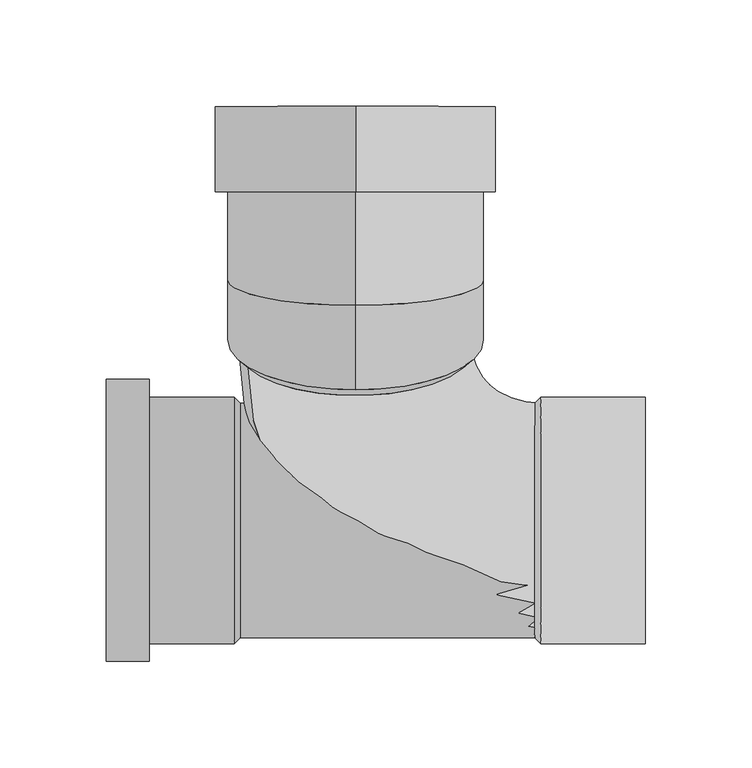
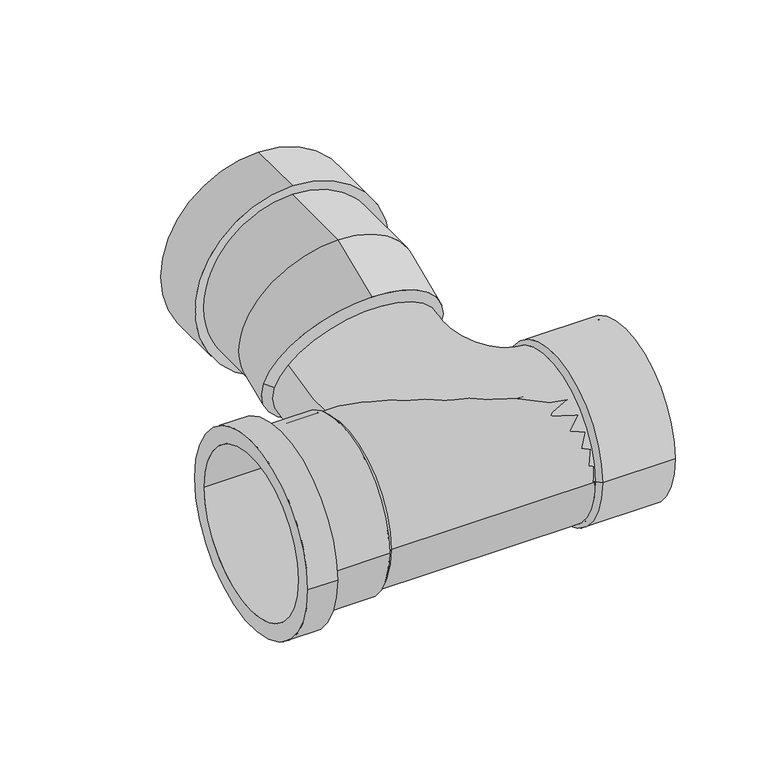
"""IFC4 building model written with IfcOpenShell, lengths in millimetres: pipe fitting geometry, Wavin_PipeAccessory_S&WSPvcBranchWc : 23º."""

from ifc_helpers import new_model, si_unit, point, frame, origin, origin_2d, place, context, project, spatial, polyline, circle_curve, ellipse_curve, trimmed, segment, composite_curve, outline, extrude, source, transform, mapped, element, save
from ifc_brep_helpers import plane_surface, cylinder_surface, revolved_surface, advanced_brep


def pipe_fitting_f7622124(model_context):
    return source(origin(), model_context, "Body", "SolidModel", [
        advanced_brep(
        [(-54.1, -55.0, 0.0), (-54.1, 55.0, 0.0), (-117.0, 55.0, 0.0), (-117.0, -55.0, 0.0), (-97.0, -57.9, 0.0), (-97.0, 57.9, 0.0), (-57.0, 57.9, 0.0), (-57.0, -57.9, 0.0), (-117.0, -66.25, 0.0), (-117.0, 66.25, 0.0), (-97.0, 66.25, 0.0), (-97.0, -66.25, 0.0)],
        [
            (0, 1, circle_curve(frame((-54.1, 0.0, 0.0), z_axis=(1.0, 0.0, 0.0), x_axis=(0.0, 1.0000000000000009, 0.0)), 55.0)),
            (1, 2),
            (2, 3, circle_curve(frame((-117.0, 0.0, 0.0), z_axis=(-1.0, 0.0, 0.0), x_axis=(0.0, 1.0000000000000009, 0.0)), 55.0)),
            (3, 0),
            (4, 5, circle_curve(frame((-97.0, 0.0, 0.0), z_axis=(1.0, 0.0, 0.0), x_axis=(0.0, 1.0000000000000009, 0.0)), 57.9)),
            (5, 6),
            (6, 7, circle_curve(frame((-57.0, 0.0, 0.0), z_axis=(-1.0, 0.0, 0.0), x_axis=(0.0, 1.0000000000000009, 0.0)), 57.9)),
            (7, 4),
            (1, 0, circle_curve(frame((-54.1, 0.0, 0.0), z_axis=(1.0, 0.0, 0.0), x_axis=(0.0, -1.0000000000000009, 0.0)), 55.0)),
            (3, 2, circle_curve(frame((-117.0, 0.0, 0.0), z_axis=(-1.0, 0.0, 0.0), x_axis=(0.0, -1.0000000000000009, 0.0)), 55.0)),
            (5, 4, circle_curve(frame((-97.0, 0.0, 0.0), z_axis=(1.0, 0.0, 0.0), x_axis=(0.0, -1.0000000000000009, 0.0)), 57.9)),
            (7, 6, circle_curve(frame((-57.0, 0.0, 0.0), z_axis=(-1.0, 0.0, 0.0), x_axis=(0.0, -1.0000000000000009, 0.0)), 57.9)),
            (8, 9, circle_curve(frame((-117.0, 0.0, 0.0), z_axis=(1.0, 0.0, 0.0), x_axis=(0.0, 1.0000000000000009, 0.0)), 66.25)),
            (9, 10),
            (10, 11, circle_curve(frame((-97.0, 0.0, 0.0), z_axis=(-1.0, 0.0, 0.0), x_axis=(0.0, 1.0000000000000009, 0.0)), 66.25)),
            (11, 8),
            (10, 11, circle_curve(frame((-97.0, 0.0, 0.0), z_axis=(1.0, 0.0, 0.0), x_axis=(0.0, -1.0000000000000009, 0.0)), 66.25)),
            (9, 8, circle_curve(frame((-117.0, 0.0, 0.0), z_axis=(1.0, 0.0, 0.0), x_axis=(0.0, -1.0000000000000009, 0.0)), 66.25)),
            (6, 1),
            (0, 7),
        ],
        [
            revolved_surface(polyline([(-117.00000000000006, 55.00000000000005, 0.0), (-54.1, 55.00000000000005, 0.0)]), (-57.0, 0.0, 0.0), (-1.0000000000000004, 0.0, 0.0)),
            cylinder_surface(frame((-57.0, 0.0, 0.0), z_axis=(-1.0000000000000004, 0.0, 0.0), x_axis=(0.0, 1.0000000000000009, 0.0)), 57.9),
            revolved_surface(polyline([(-117.00000000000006, -55.00000000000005, 0.0), (-54.1, -55.00000000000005, 0.0)]), (-57.0, 0.0, 0.0), (-1.0000000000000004, 0.0, 0.0)),
            cylinder_surface(frame((-57.0, 0.0, 0.0), z_axis=(-1.0000000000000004, 0.0, 0.0), x_axis=(0.0, -1.0000000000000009, 0.0)), 57.9),
            cylinder_surface(frame((-57.0, 0.0, 0.0), z_axis=(-1.0000000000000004, 0.0, 0.0), x_axis=(0.0, 1.0000000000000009, 0.0)), 66.25),
            plane_surface(frame((-97.0, 0.0, 0.0), z_axis=(1.0, 0.0, 0.0), x_axis=(0.0, -1.0, 0.0))),
            cylinder_surface(frame((-57.0, 0.0, 0.0), z_axis=(-1.0000000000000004, 0.0, 0.0), x_axis=(0.0, -1.0000000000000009, 0.0)), 66.25),
            plane_surface(frame((-117.0, 0.0, 0.0), z_axis=(-1.0, 0.0, 0.0), x_axis=(0.0, -1.0, 0.0))),
            revolved_surface(polyline([(-54.1, 55.0, 0.0), (-57.0, 57.9, 0.0)]), (-57.0, 0.0, 0.0), (-1.0000000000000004, 0.0, 0.0)),
            revolved_surface(polyline([(-54.1, -55.0, 0.0), (-57.0, -57.9, 0.0)]), (-57.0, 0.0, 0.0), (-1.0000000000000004, 0.0, 0.0)),
        ],
        [
            (0, [[1, 2, 3, 4]]),
            (1, [[5, 6, 7, 8]]),
            (2, [[9, -4, 10, -2]]),
            (3, [[11, -8, 12, -6]]),
            (4, [[13, 14, 15, 16]]),
            (5, [[17, -15], [-11, -5]]),
            (6, [[18, -16, -17, -14]]),
            (7, [[-18, -13], [-10, -3]]),
            (8, [[-7, 19, -1, 20]]),
            (9, [[-12, -20, -9, -19]]),
        ],
    ),
        advanced_brep(
        [(87.0, 57.9, 0.0), (87.0, -57.9, 0.0), (84.1, -55.0, 0.0), (84.1, 55.0, 0.0), (136.0, 57.9, 0.0), (136.0, -57.9, 0.0), (136.0, -55.0, 0.0), (136.0, 55.0, 0.0)],
        [
            (0, 1, circle_curve(frame((87.0, 0.0, 0.0), z_axis=(-1.0, 0.0, 0.0), x_axis=(0.0, -1.0, 0.0)), 57.9)),
            (1, 2),
            (2, 3, circle_curve(frame((84.1, 0.0, 0.0), z_axis=(1.0, 0.0, 0.0), x_axis=(0.0, -1.0, 0.0)), 55.0)),
            (3, 0),
            (4, 5, circle_curve(frame((136.0, 0.0, 0.0), z_axis=(-1.0, 0.0, 0.0), x_axis=(0.0, -1.0, 0.0)), 57.9)),
            (5, 1),
            (0, 4),
            (2, 6),
            (6, 7, circle_curve(frame((136.0, 0.0, 0.0), z_axis=(1.0, 0.0, 0.0), x_axis=(0.0, -1.0, 0.0)), 55.0)),
            (7, 3),
            (1, 0, circle_curve(frame((87.0, 0.0, 0.0), z_axis=(-1.0, 0.0, 0.0), x_axis=(0.0, 1.0, 0.0)), 57.9)),
            (3, 2, circle_curve(frame((84.1, 0.0, 0.0), z_axis=(1.0, 0.0, 0.0), x_axis=(0.0, 1.0, 0.0)), 55.0)),
            (5, 4, circle_curve(frame((136.0, 0.0, 0.0), z_axis=(-1.0, 0.0, 0.0), x_axis=(0.0, 1.0, 0.0)), 57.9)),
            (6, 7, circle_curve(frame((136.0, 0.0, 0.0), z_axis=(-1.0, 0.0, 0.0), x_axis=(0.0, 1.0, 0.0)), 55.0)),
        ],
        [
            revolved_surface(polyline([(84.1, -55.0, 0.0), (87.0, -57.9, 0.0)]), (87.0, 0.0, 0.0), (1.0, 0.0, 0.0)),
            cylinder_surface(frame((87.0, 0.0, 0.0), z_axis=(1.0, 0.0, 0.0), x_axis=(0.0, -1.0, 0.0)), 57.9),
            revolved_surface(polyline([(136.0, -55.0, 0.0), (84.1, -55.0, 0.0)]), (87.0, 0.0, 0.0), (1.0, 0.0, 0.0)),
            revolved_surface(polyline([(84.1, 55.0, 0.0), (87.0, 57.9, 0.0)]), (87.0, 0.0, 0.0), (1.0, 0.0, 0.0)),
            cylinder_surface(frame((87.0, 0.0, 0.0), z_axis=(1.0, 0.0, 0.0), x_axis=(0.0, 1.0, 0.0)), 57.9),
            plane_surface(frame((136.0, 0.0, 0.0), z_axis=(1.0, 0.0, 0.0), x_axis=(0.0, 1.0, 0.0))),
            revolved_surface(polyline([(136.0, 55.0, 0.0), (84.1, 55.0, 0.0)]), (87.0, 0.0, 0.0), (1.0, 0.0, 0.0)),
        ],
        [
            (0, [[1, 2, 3, 4]]),
            (1, [[5, 6, -1, 7]]),
            (2, [[-3, 8, 9, 10]]),
            (3, [[11, -4, 12, -2]]),
            (4, [[13, -7, -11, -6]]),
            (5, [[-13, -5], [14, -9]]),
            (6, [[-12, -10, -14, -8]]),
        ],
    ),
        advanced_brep(
        [(87.0, -55.0, 0.0), (87.0, 55.0, 0.0), (-50.6277669, 71.6870274, 53.7754527), (-55.0, 80.0839223, 33.9936082), (50.6277669, 88.4808171, 14.2117637), (55.0, 80.0839223, 33.9936082), (0.0, 194.3015921, -18.0), (0.0, 194.3015921, 114.0), (0.0, 194.3015921, 104.5), (0.0, 194.3015921, -8.5), (0.0, 100.8737756, 108.0), (0.0, 125.2880515, -12.0), (0.0, 154.3015921, -12.0), (0.0, 154.3015921, 108.0), (0.0, 61.2425788, 91.177555), (60.0, 84.6864465, 35.9472638), (0.0, 108.1303142, -19.2830274), (-60.0, 84.6864465, 35.9472638), (0.0, 154.3015921, -18.0), (0.0, 154.3015921, 114.0), (0.0, 124.3015921, 104.5), (0.0, 124.3015921, -8.5)],
        [
            (0, 1, circle_curve(frame((87.0, 0.0, 0.0), z_axis=(1.0, 0.0, 0.0), x_axis=(0.0, 1.0, 0.0)), 55.0)),
            (1, 0, circle_curve(frame((87.0, 0.0, 0.0), z_axis=(1.0, 0.0, 0.0), x_axis=(0.0, 1.0, 0.0)), 55.0)),
            (0, 2, circle_curve(frame((87.0, 71.6870274, 53.7754527), z_axis=(0.0, 0.39073112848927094, -0.9205048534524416), x_axis=(0.0, -0.9205048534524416, -0.39073112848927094)), 137.6277669)),
            (2, 3, circle_curve(frame((0.0, 80.0839223, 33.9936082), z_axis=(0.0, -0.9205048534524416, -0.39073112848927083), x_axis=(0.9205048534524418, 0.15267081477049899, -0.35966990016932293)), 55.0)),
            (3, 4, circle_curve(frame((0.0, 80.0839223, 33.9936082), z_axis=(0.0, -0.9205048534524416, -0.39073112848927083), x_axis=(0.9205048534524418, 0.15267081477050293, -0.35966990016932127)), 55.0)),
            (4, 1, circle_curve(frame((87.0, 88.4808171, 14.2117637), z_axis=(0.0, -0.39073112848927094, 0.9205048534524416), x_axis=(0.0, -0.9205048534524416, -0.39073112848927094)), 36.3722331)),
            (4, 5, circle_curve(frame((0.0, 80.0839223, 33.9936082), z_axis=(0.0, -0.9205048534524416, -0.39073112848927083), x_axis=(0.9205048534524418, 0.15267081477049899, -0.35966990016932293)), 55.0)),
            (5, 2, circle_curve(frame((0.0, 80.0839223, 33.9936082), z_axis=(0.0, -0.9205048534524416, -0.39073112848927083), x_axis=(0.9205048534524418, 0.15267081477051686, -0.3596699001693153)), 55.0)),
            (6, 7, circle_curve(frame((0.0, 194.3015921, 48.0), z_axis=(0.0, 1.0, 0.0), x_axis=(0.0, 0.0, 1.0)), 66.0)),
            (7, 6, circle_curve(frame((0.0, 194.3015921, 48.0), z_axis=(0.0, 1.0, 0.0), x_axis=(0.0, 0.0, 1.0)), 66.0)),
            (8, 9, circle_curve(frame((0.0, 194.3015921, 48.0), z_axis=(0.0, -1.0, 0.0), x_axis=(0.0, 0.0, -1.0)), 56.5)),
            (9, 8, circle_curve(frame((0.0, 194.3015921, 48.0), z_axis=(0.0, -1.0, 0.0), x_axis=(0.0, 0.0, -1.0)), 56.5)),
            (10, 11, ellipse_curve(frame((0.0, 113.0809136, 48.0), z_axis=(0.0, 0.9799247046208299, 0.19936793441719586), x_axis=(0.0, 0.1993679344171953, -0.9799247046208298)), 61.2291942, 60.0)),
            (11, 12),
            (12, 13, circle_curve(frame((0.0, 154.3015921, 48.0), z_axis=(0.0, -1.0, 0.0), x_axis=(0.0, 0.0, -1.0)), 60.0)),
            (13, 10),
            (11, 10, ellipse_curve(frame((0.0, 113.0809136, 48.0), z_axis=(0.0, 0.9799247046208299, 0.19936793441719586), x_axis=(0.0, 0.1993679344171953, -0.9799247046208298)), 61.2291942, 60.0)),
            (13, 12, circle_curve(frame((0.0, 154.3015921, 48.0), z_axis=(0.0, -1.0, 0.0), x_axis=(0.0, 0.0, -1.0)), 60.0)),
            (10, 14),
            (14, 15, circle_curve(frame((0.0, 84.6864465, 35.9472638), z_axis=(0.0, 0.9205048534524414, 0.3907311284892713), x_axis=(0.0, 0.3907311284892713, -0.9205048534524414)), 60.0)),
            (15, 16, circle_curve(frame((0.0, 84.6864465, 35.9472638), z_axis=(0.0, 0.9205048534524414, 0.3907311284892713), x_axis=(0.0, 0.3907311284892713, -0.9205048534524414)), 60.0)),
            (16, 11),
            (16, 17, circle_curve(frame((0.0, 84.6864465, 35.9472638), z_axis=(0.0, 0.9205048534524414, 0.3907311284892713), x_axis=(0.0, 0.3907311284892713, -0.9205048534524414)), 60.0)),
            (17, 14, circle_curve(frame((0.0, 84.6864465, 35.9472638), z_axis=(0.0, 0.9205048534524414, 0.3907311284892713), x_axis=(0.0, 0.3907311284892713, -0.9205048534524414)), 60.0)),
            (18, 19, circle_curve(frame((0.0, 154.3015921, 48.0), z_axis=(0.0, -1.0, 0.0), x_axis=(0.0, 0.0, 1.0)), 66.0)),
            (19, 18, circle_curve(frame((0.0, 154.3015921, 48.0), z_axis=(0.0, -1.0, 0.0), x_axis=(0.0, 0.0, 1.0)), 66.0)),
            (19, 7),
            (6, 18),
            (20, 21, circle_curve(frame((0.0, 124.3015921, 48.0), z_axis=(0.0, 1.0, 0.0), x_axis=(0.0, 0.0, -1.0)), 56.5)),
            (21, 20, circle_curve(frame((0.0, 124.3015921, 48.0), z_axis=(0.0, 1.0, 0.0), x_axis=(0.0, 0.0, -1.0)), 56.5)),
            (21, 9),
            (8, 20),
            (15, 5),
            (3, 17),
        ],
        [
            plane_surface(frame((87.0, 99.6204787, -12.0316345), z_axis=(1.0, 0.0, 0.0), x_axis=(0.0, -0.9205048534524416, -0.39073112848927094))),
            revolved_surface(trimmed(ellipse_curve(frame((87.0, 0.0, 0.0), z_axis=(1.0, 0.0, 0.0), x_axis=(0.0, 1.0, 0.0)), 55.0, 55.0), [point((87.0, -55.0, 0.0))], [point((87.0, 55.0, 0.0))], True, "CARTESIAN"), (87.0, 99.6204787, -12.0316345), (0.0, 0.39073112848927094, -0.9205048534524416)),
            revolved_surface(trimmed(ellipse_curve(frame((87.0, 0.0, 0.0), z_axis=(1.0, 0.0, 0.0), x_axis=(0.0, 1.0, 0.0)), 55.0, 55.0), [point((87.0, 55.0, 0.0))], [point((87.0, -55.0, 0.0))], True, "CARTESIAN"), (87.0, 99.6204787, -12.0316345), (0.0, 0.39073112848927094, -0.9205048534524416)),
            plane_surface(frame((0.0, 194.3015921, 48.0), z_axis=(0.0, 1.0, 0.0), x_axis=(1.0, 0.0, 0.0))),
            cylinder_surface(frame((0.0, 194.3015921, 48.0), z_axis=(0.0, 1.0, 0.0), x_axis=(0.0, 0.0, -1.0)), 60.0),
            cylinder_surface(frame((0.0, 113.0809136, 48.0), z_axis=(0.0, 0.9205048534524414, 0.3907311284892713), x_axis=(0.0, 0.3907311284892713, -0.9205048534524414)), 60.0),
            plane_surface(frame((0.0, 154.3015921, 114.0), z_axis=(0.0, -1.0, 0.0), x_axis=(-1.0, 0.0, 0.0))),
            cylinder_surface(frame((0.0, 154.3015921, 48.0), z_axis=(0.0, 1.0, 0.0), x_axis=(0.0, 0.0, 1.0)), 66.0),
            plane_surface(frame((0.0, 124.3015921, -8.5), z_axis=(0.0, 1.0, 0.0), x_axis=(1.0, 0.0, 0.0))),
            revolved_surface(polyline([(0.0, 124.3015921, -8.5), (0.0, 194.3015921, -8.5)]), (0.0, 194.3015921, 48.0), (0.0, -1.0, 0.0)),
            revolved_surface(polyline([(-60.0, 84.6864465, 35.9472638), (-55.0, 80.0839223, 33.9936082)]), (0.0, 80.0839223, 33.9936082), (0.0, -0.9205048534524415, -0.3907311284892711)),
            revolved_surface(polyline([(60.0, 84.6864465, 35.9472638), (55.0, 80.0839223, 33.9936082)]), (0.0, 80.0839223, 33.9936082), (0.0, -0.9205048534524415, -0.3907311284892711)),
        ],
        [
            (0, [[1, 2]]),
            (1, [[-1, 3, 4, 5, 6]]),
            (2, [[-2, -6, 7, 8, -3]]),
            (3, [[9, 10], [11, 12]]),
            (4, [[13, 14, 15, 16]]),
            (4, [[17, -16, 18, -14]]),
            (5, [[-13, 19, 20, 21, 22]]),
            (5, [[-17, -22, 23, 24, -19]]),
            (6, [[25, 26], [-15, -18]]),
            (7, [[-26, 27, -9, 28]]),
            (7, [[-25, -28, -10, -27]]),
            (8, [[29, 30]]),
            (9, [[-30, 31, -11, 32]]),
            (9, [[-29, -32, -12, -31]]),
            (10, [[33, -7, -5, 34, -23, -21]]),
            (11, [[-33, -20, -24, -34, -4, -8]]),
        ],
    ),
        extrude(outline(composite_curve([segment(trimmed(circle_curve(origin_2d(), 55.0), [point((-55.0, 0.0))], [point((55.0, 0.0))], False, "CARTESIAN"), True, "CONTINUOUS"), segment(trimmed(circle_curve(origin_2d(), 55.0), [point((55.0, 0.0))], [point((-55.0, 0.0))], False, "CARTESIAN"), True, "CONTINUOUS")], self_intersect=False)), frame((-57.0, 0.0, 0.0), z_axis=(1.0, 0.0, 0.0), x_axis=(0.0, 1.0, 0.0)), (0.0, 0.0, 1.0), 144.0),
    ])


if __name__ == "__main__":
    model = new_model("IFC4")
    model_context = context("Model", 3, world=origin())
    ifc_project = project(units=[si_unit("LENGTHUNIT", "METRE", prefix="MILLI")], contexts=[model_context])
    site = spatial("IfcSite", under=ifc_project)
    building = spatial("IfcBuilding", under=site)
    placement = place(None, origin())
    pipe_fitting_shape = pipe_fitting_f7622124(model_context)
    element("IfcPipeFitting", 1, ObjectType="Wavin_PipeAccessory_S&WSPvcBranchWc : 23º", at=placement, inside=building, context=model_context, shape_type="MappedRepresentation", body=[
        mapped(pipe_fitting_shape, transform((0.0, 0.0, 0.0), x_axis=(1.0, 0.0, 0.0), y_axis=(0.0, 1.0, 0.0), z_axis=(0.0, 0.0, 1.0))),
    ])
    save(model, "model.ifc")
